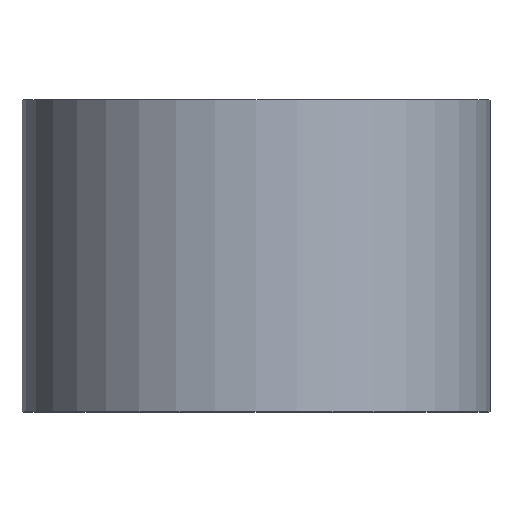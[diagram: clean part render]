
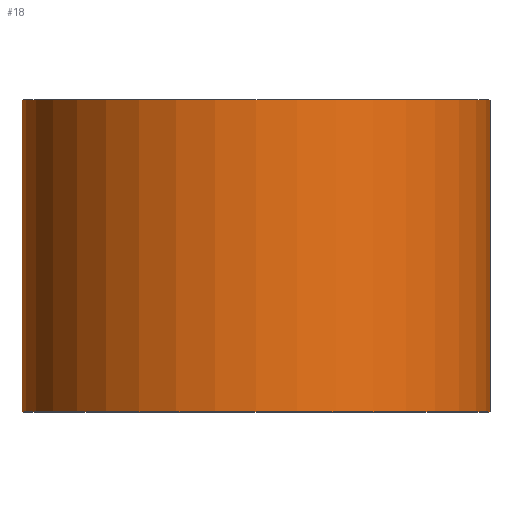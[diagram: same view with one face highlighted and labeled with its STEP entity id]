
A CAD part, top view. The second image highlights one B-rep face of the part: STEP entity #18.
In plain terms, the highlighted cylindrical face has radius 15 mm (diameter 30 mm), a partial arc.
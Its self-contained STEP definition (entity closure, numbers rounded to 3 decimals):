
#7 = CARTESIAN_POINT ( 'NONE',  ( -15., 20., 0. ) ) ;
#12 = ORIENTED_EDGE ( 'NONE', *, *, #206, .T. ) ;
#18 = ADVANCED_FACE ( 'NONE', ( #110 ), #45, .T. ) ;
#37 = AXIS2_PLACEMENT_3D ( 'NONE', #280, #199, #218 ) ;
#38 = DIRECTION ( 'NONE',  ( -1., 0., 0. ) ) ;
#39 = CARTESIAN_POINT ( 'NONE',  ( 0., 0., 0. ) ) ;
#45 = CYLINDRICAL_SURFACE ( 'NONE', #263, 15. ) ;
#56 = CARTESIAN_POINT ( 'NONE',  ( -15., 0., 0. ) ) ;
#72 = VERTEX_POINT ( 'NONE', #281 ) ;
#74 = CARTESIAN_POINT ( 'NONE',  ( 0., 0., 0. ) ) ;
#77 = DIRECTION ( 'NONE',  ( -1., 0., 0. ) ) ;
#103 = CARTESIAN_POINT ( 'NONE',  ( -15., 0., 0. ) ) ;
#106 = ORIENTED_EDGE ( 'NONE', *, *, #222, .F. ) ;
#110 = FACE_OUTER_BOUND ( 'NONE', #142, .T. ) ;
#117 = CARTESIAN_POINT ( 'NONE',  ( 15., 0., 0. ) ) ;
#142 = EDGE_LOOP ( 'NONE', ( #154, #12, #106, #217 ) ) ;
#143 = DIRECTION ( 'NONE',  ( 0., 1., 0. ) ) ;
#154 = ORIENTED_EDGE ( 'NONE', *, *, #213, .T. ) ;
#156 = AXIS2_PLACEMENT_3D ( 'NONE', #74, #285, #77 ) ;
#165 = DIRECTION ( 'NONE',  ( 0., 1., 0. ) ) ;
#168 = VERTEX_POINT ( 'NONE', #56 ) ;
#172 = CARTESIAN_POINT ( 'NONE',  ( 15., 0., 0. ) ) ;
#183 = CIRCLE ( 'NONE', #37, 15. ) ;
#184 = VERTEX_POINT ( 'NONE', #7 ) ;
#193 = LINE ( 'NONE', #103, #298 ) ;
#196 = DIRECTION ( 'NONE',  ( 0., 1., 0. ) ) ;
#199 = DIRECTION ( 'NONE',  ( 0., 1., 0. ) ) ;
#205 = VECTOR ( 'NONE', #196, 1000. ) ;
#206 = EDGE_CURVE ( 'NONE', #208, #72, #253, .T. ) ;
#208 = VERTEX_POINT ( 'NONE', #117 ) ;
#213 = EDGE_CURVE ( 'NONE', #168, #208, #233, .T. ) ;
#217 = ORIENTED_EDGE ( 'NONE', *, *, #260, .F. ) ;
#218 = DIRECTION ( 'NONE',  ( -1., 0., 0. ) ) ;
#222 = EDGE_CURVE ( 'NONE', #184, #72, #183, .T. ) ;
#233 = CIRCLE ( 'NONE', #156, 15. ) ;
#253 = LINE ( 'NONE', #172, #205 ) ;
#260 = EDGE_CURVE ( 'NONE', #168, #184, #193, .T. ) ;
#263 = AXIS2_PLACEMENT_3D ( 'NONE', #39, #165, #38 ) ;
#280 = CARTESIAN_POINT ( 'NONE',  ( 0., 20., 0. ) ) ;
#281 = CARTESIAN_POINT ( 'NONE',  ( 15., 20., 0. ) ) ;
#285 = DIRECTION ( 'NONE',  ( 0., 1., 0. ) ) ;
#298 = VECTOR ( 'NONE', #143, 1000. ) ;
